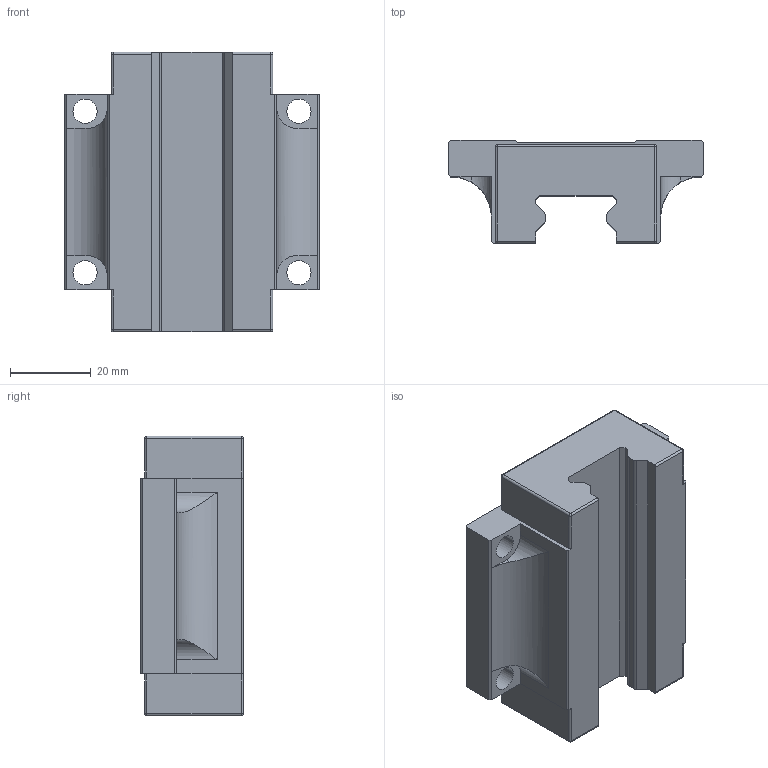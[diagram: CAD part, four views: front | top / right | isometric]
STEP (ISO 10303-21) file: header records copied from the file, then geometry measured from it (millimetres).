
FILE_DESCRIPTION (( 'STEP AP203' ), '1' );
FILE_NAME ('L1016.F20-BC.step', '2019-06-13T14:21:33', ( '' ), ( '' ), 'SwSTEP 2.0', 'SolidWorks 2017', '' );
FILE_SCHEMA (( 'CONFIG_CONTROL_DESIGN' ));
Length unit declared in the file: millimetre
Products named in the file (1): L1016.F20-BC
Bounding box: 63 x 25.5 x 69.3 mm (x, y, z)
Volume: 66404.8 mm3; surface area: 15219 mm2
Topology: 1 solids, 1 shells, 92 faces, 250 edges, 152 vertices
Faces by surface type: plane 48, cylinder 36, sphere 8
Entity records: 2967 total; most frequent: CARTESIAN_POINT 559, DIRECTION 492, ORIENTED_EDGE 484, EDGE_CURVE 242, LINE 170, VECTOR 170, AXIS2_PLACEMENT_3D 161, VERTEX_POINT 152
